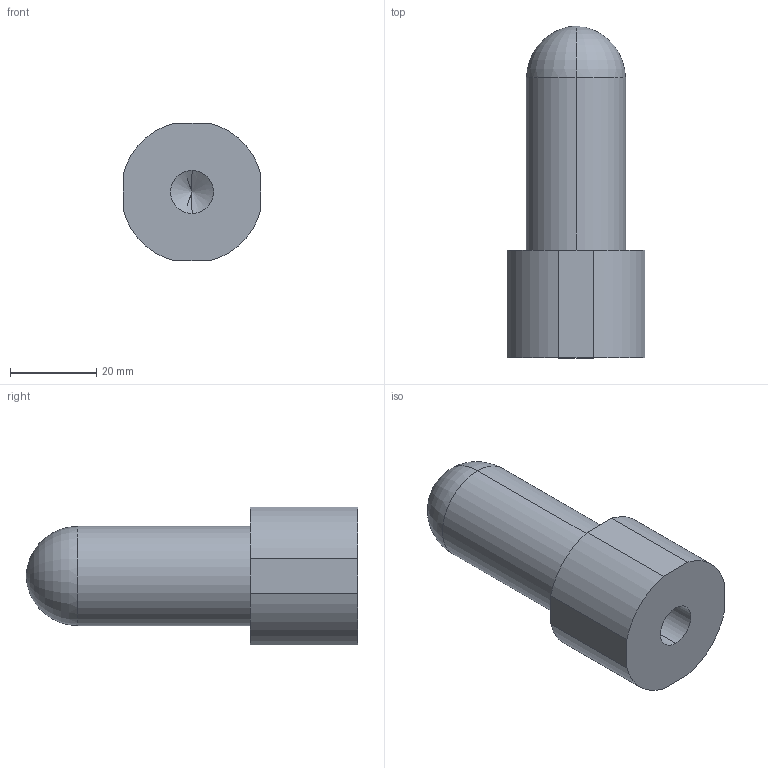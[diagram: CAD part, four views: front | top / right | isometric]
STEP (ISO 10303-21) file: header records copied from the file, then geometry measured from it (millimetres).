
FILE_DESCRIPTION (( 'STEP AP214' ), '1' );
FILE_NAME ('JB-417.step', '2023-12-26T00:49:38', ( 'catia' ), ( 'HP Inc.' ), 'SwSTEP 2.0', 'SolidWorks 2021', '' );
FILE_SCHEMA (( 'AUTOMOTIVE_DESIGN' ));
Length unit declared in the file: millimetre
Products named in the file (1): JB-417
Bounding box: 32 x 77 x 32 mm (x, y, z)
Volume: 31427.5 mm3; surface area: 13011.1 mm2
Topology: 1 solids, 1 shells, 21 faces, 50 edges, 30 vertices
Faces by surface type: cylinder 10, plane 7, cone 2, torus 2
Entity records: 620 total; most frequent: DIRECTION 112, CARTESIAN_POINT 98, ORIENTED_EDGE 92, EDGE_CURVE 46, AXIS2_PLACEMENT_3D 44, VERTEX_POINT 30, EDGE_LOOP 24, VECTOR 24
